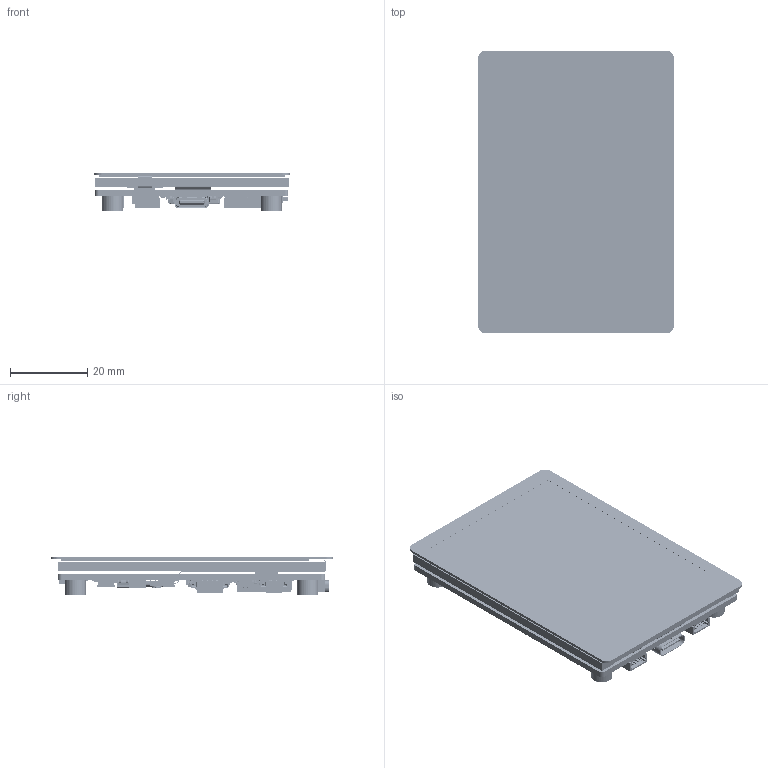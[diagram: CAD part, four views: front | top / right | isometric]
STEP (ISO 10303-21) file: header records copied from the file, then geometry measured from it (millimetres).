
FILE_DESCRIPTION((''),'2;1');
FILE_NAME('ESP32-S3-TOUCH-LCD-2_8_ASM','2024-07-26T16:26:46',('xiaojisheng'),(''),'CREO PARAMETRIC BY PTC INC, 2021063','CREO PARAMETRIC BY PTC INC, 2021063','');
FILE_SCHEMA(('CONFIG_CONTROL_DESIGN','SHAPE_APPEARANCE_LAYERS_GROUPS'));
Products named in the file (267): 2_8INCH-240X320-TP; 2_8INCH-240X320-LCD; BOARD; _2_1_20001; 5_1_2_A; _7_AF0; R_0402-3099_AF0_ASM_ASM; R_0402-5222_AF0_ASM_ASM; R0402_ASM; R45_ASM; R44_ASM; R43_ASM; R42_ASM; R41_ASM; R40_ASM; R39_ASM; R38_ASM; R37_ASM; R3_ASM; SOIC16-150; U7_ASM; USER_LIBRARY-RES_0603-0201_1; USER_LIBRARY-RES_0603-0201_2; USER_LIBRARY-RES_0603-0201_3; USER_LIBRARY-RES_0603-0201_4; USER_LIBRARY-RES_0603-0201_ASM; R36_ASM; _1_10001; 3_1_A; 2_100; C_0402-672_AF0_ASM_ASM; C_0402-4045_AF0_ASM_ASM; C_0402_ASM; C36_ASM; C35_ASM; 2_A; 300; _10001; C_0201-1099_AF1_ASM_ASM; C_0201-4408_AF1_ASM_ASM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
Assembly tree (402 placements, depth 8):
  ESP32-S3-TOUCH-LCD-2_8_ASM
    2_8INCH-240X320-TP
    2_8INCH-240X320-LCD
    ESP32-S3-TOUCH-LCD-2_8-PCBA_ASM
      PCB_ASM
        BOARD
        R45_ASM
          R0402_ASM
            R_0402-5222_AF0_ASM_ASM
              R_0402-3099_AF0_ASM_ASM
                _2_1_20001
                5_1_2_A
                _7_AF0
        R44_ASM
          R0402_ASM
            R_0402-5222_AF0_ASM_ASM
              R_0402-3099_AF0_ASM_ASM
                _2_1_20001
                5_1_2_A
                _7_AF0
        R43_ASM
          R0402_ASM
            R_0402-5222_AF0_ASM_ASM
              R_0402-3099_AF0_ASM_ASM
                _2_1_20001
                5_1_2_A
                _7_AF0
        R42_ASM
          R0402_ASM
            R_0402-5222_AF0_ASM_ASM
              R_0402-3099_AF0_ASM_ASM
                _2_1_20001
                5_1_2_A
                _7_AF0
        R41_ASM
          R0402_ASM
            R_0402-5222_AF0_ASM_ASM
              R_0402-3099_AF0_ASM_ASM
                _2_1_20001
                5_1_2_A
                _7_AF0
        R40_ASM
          R0402_ASM
            R_0402-5222_AF0_ASM_ASM
              R_0402-3099_AF0_ASM_ASM
                _2_1_20001
                5_1_2_A
                _7_AF0
        R39_ASM
          R0402_ASM
            R_0402-5222_AF0_ASM_ASM
              R_0402-3099_AF0_ASM_ASM
                _2_1_20001
                5_1_2_A
                _7_AF0
        R38_ASM
          R0402_ASM
            R_0402-5222_AF0_ASM_ASM
              R_0402-3099_AF0_ASM_ASM
                _2_1_20001
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Bounding box: 50.54 x 73.06 x 10 mm (x, y, z)
Volume: 18038.6 mm3; surface area: 29235.1 mm2
Topology: 451 solids, 465 shells, 34430 faces, 90846 edges, 59660 vertices
Faces by surface type: plane 25823, extrusion 4874, cylinder 3048, sphere 467, torus 90, cone 78, bspline 50
Entity records: 364408 total; most frequent: CARTESIAN_POINT 75049, ORIENTED_EDGE 46722, DIRECTION 42324, EDGE_CURVE 23362, PRESENTATION_STYLE_ASSIGNMENT 20374, VECTOR 19424, STYLED_ITEM 19190, CURVE_STYLE 19009
